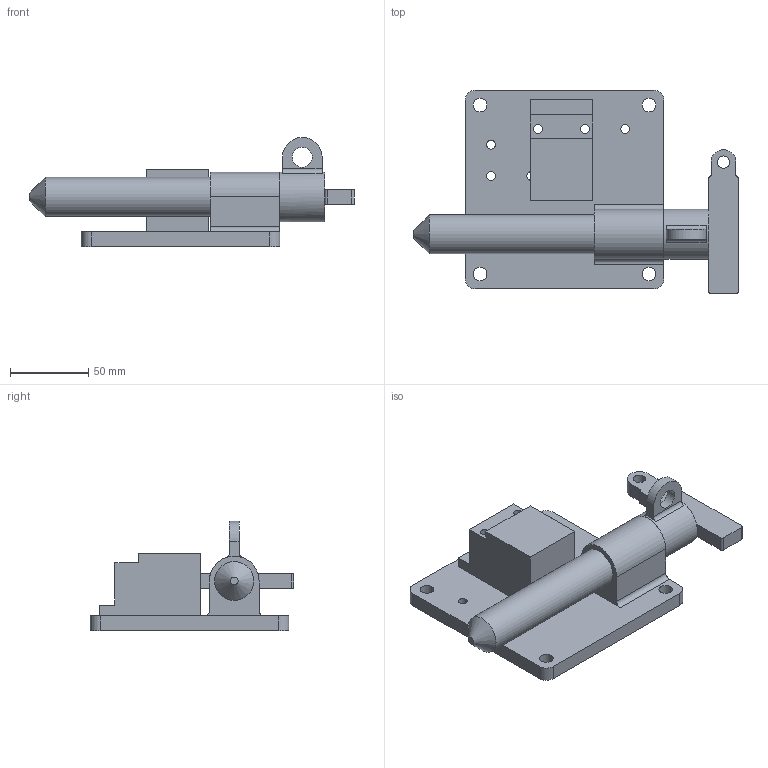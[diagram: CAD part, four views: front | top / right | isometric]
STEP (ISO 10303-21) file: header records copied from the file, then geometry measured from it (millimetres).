
FILE_DESCRIPTION(/* description */ (''),/* implementation_level */ '2;1');
FILE_NAME(/* name */ 'C:\Users\rcarver\Desktop\Tru-LOK pin\Ford-FCA\With Switch\SP25Y150TY00201.stp',/* time_stamp */ '2016-06-21T11:14:36-04:00',/* author */ ('rcarver'),/* organization */ (''),/* preprocessor_version */ 'ST-DEVELOPER v16.5',/* originating_system */ 'Autodesk Inventor 2017',/* authorisation */ '');
FILE_SCHEMA (('AUTOMOTIVE_DESIGN { 1 0 10303 214 3 1 1 }'));
Length unit declared in the file: millimetre
Products named in the file (1): SP25Y150TY00201
Bounding box: 207.62 x 130.18 x 69.85 mm (x, y, z)
Volume: 378568.7 mm3; surface area: 75945.6 mm2
Topology: 3 solids, 3 shells, 69 faces, 192 edges, 131 vertices
Faces by surface type: plane 37, cylinder 31, cone 1
Full cylindrical faces by diameter (mm): 5.588 x2, 5.59 x6, 7.94 x1, 8.74 x4, 12.7 x1, 25 x1, 31.75 x1
Entity records: 2196 total; most frequent: DIRECTION 368, CARTESIAN_POINT 346, ORIENTED_EDGE 320, EDGE_CURVE 160, AXIS2_PLACEMENT_3D 138, EDGE_LOOP 116, VERTEX_POINT 116, LINE 92
